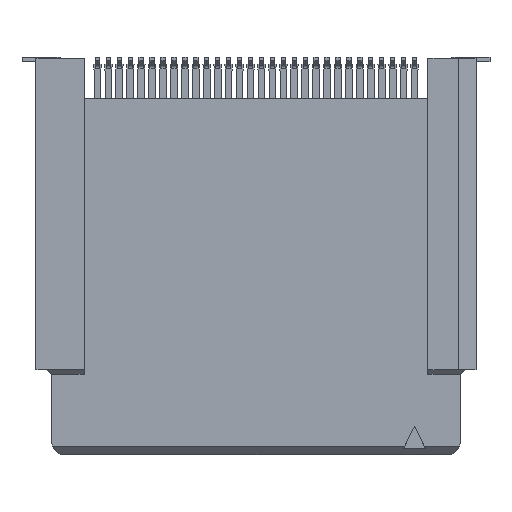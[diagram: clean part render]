
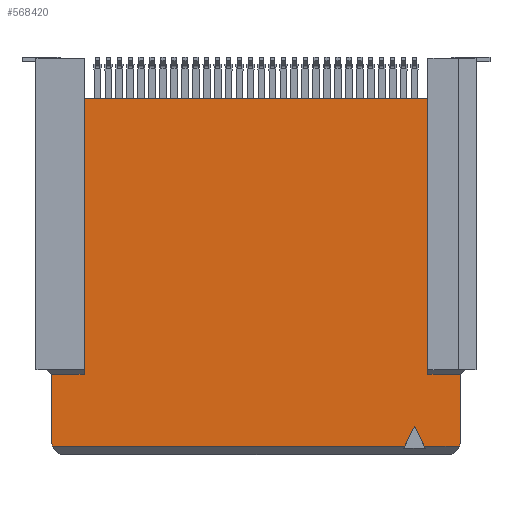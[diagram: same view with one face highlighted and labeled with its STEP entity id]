
A CAD part, front view. The second image highlights one B-rep face of the part: STEP entity #568420.
In plain terms, the highlighted planar face has unit normal (0, -1, 0).
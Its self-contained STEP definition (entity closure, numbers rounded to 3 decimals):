
#120=CARTESIAN_POINT('',(-7.43,-1.54,
-7.162));
#130=VERTEX_POINT('',#120);
#160=CARTESIAN_POINT('',(-7.43,-1.54,
-7.5));
#170=DIRECTION('',(0.,0.,-1.));
#180=VECTOR('',#170,1.);
#190=LINE('',#160,#180);
#200=CARTESIAN_POINT('',(-7.43,-1.54,
-22.882));
#210=VERTEX_POINT('',#200);
#220=EDGE_CURVE('',#130,#210,#190,.T.);
#2340=CARTESIAN_POINT('',(8.88,-1.54,
-5.662));
#2350=DIRECTION('',(-1.,0.,0.));
#2360=VECTOR('',#2350,1.);
#2370=LINE('',#2340,#2360);
#2380=CARTESIAN_POINT('',(8.33,-1.54,
-5.662));
#2390=VERTEX_POINT('',#2380);
#2400=CARTESIAN_POINT('',(5.2,-1.54,
-5.662));
#2410=VERTEX_POINT('',#2400);
#2420=EDGE_CURVE('',#2390,#2410,#2370,.T.);
#93850=CARTESIAN_POINT('',(7.58,-1.54,
-7.772));
#93860=VERTEX_POINT('',#93850);
#94030=CARTESIAN_POINT('',(8.48,-1.54,
-8.222));
#94040=VERTEX_POINT('',#94030);
#94070=CARTESIAN_POINT('',(0.,-1.54,
-3.982));
#94080=DIRECTION('',(0.894,0.,
-0.447));
#94090=VECTOR('',#94080,1.);
#94100=LINE('',#94070,#94090);
#94110=EDGE_CURVE('',#93860,#94040,#94100,.T.);
#183520=CARTESIAN_POINT('',(5.2,-1.54,
-6.412));
#183530=DIRECTION('',(0.,0.,1.));
#183540=VECTOR('',#183530,1.);
#183550=LINE('',#183520,#183540);
#183560=CARTESIAN_POINT('',(5.2,-1.54,
-7.162));
#183570=VERTEX_POINT('',#183560);
#183580=EDGE_CURVE('',#183570,#2410,#183550,.T.);
#221560=CARTESIAN_POINT('',(0.,-1.54,
-7.162));
#221570=DIRECTION('',(-1.,0.,0.));
#221580=VECTOR('',#221570,1.);
#221590=LINE('',#221560,#221580);
#221600=EDGE_CURVE('',#183570,#130,#221590,.T.);
#262290=CARTESIAN_POINT('',(8.48,-1.54,
-5.722));
#262300=VERTEX_POINT('',#262290);
#262330=CARTESIAN_POINT('',(1.,-1.54,
-2.73));
#262340=DIRECTION('',(0.928,0.,
-0.371));
#262350=VECTOR('',#262340,1.);
#262360=LINE('',#262330,#262350);
#262370=EDGE_CURVE('',#2390,#262300,#262360,.T.);
#274890=CARTESIAN_POINT('',(0.,-1.54,
-11.562));
#274900=DIRECTION('',(-0.894,0.,
-0.447));
#274910=VECTOR('',#274900,1.);
#274920=LINE('',#274890,#274910);
#274930=CARTESIAN_POINT('',(8.48,-1.54,
-7.322));
#274940=VERTEX_POINT('',#274930);
#274950=EDGE_CURVE('',#274940,#93860,#274920,.T.);
#489940=CARTESIAN_POINT('',(5.2,-1.54,
-24.382));
#489950=VERTEX_POINT('',#489940);
#567510=CARTESIAN_POINT('',(0.,-1.54,
-22.882));
#567520=DIRECTION('',(1.,0.,0.));
#567530=VECTOR('',#567520,1.);
#567540=LINE('',#567510,#567530);
#567550=CARTESIAN_POINT('',(5.2,-1.54,
-22.882));
#567560=VERTEX_POINT('',#567550);
#567570=EDGE_CURVE('',#210,#567560,#567540,.T.);
#567930=CARTESIAN_POINT('',(-2.93,-1.54,
-5.022));
#567940=DIRECTION('',(0.,-1.,0.));
#567950=DIRECTION('',(1.,0.,0.));
#567960=AXIS2_PLACEMENT_3D('',#567930,#567940,#567950);
#567970=PLANE('',#567960);
#567980=CARTESIAN_POINT('',(1.,-1.54,
-27.314));
#567990=DIRECTION('',(0.928,0.,
0.371));
#568000=VECTOR('',#567990,1.);
#568010=LINE('',#567980,#568000);
#568020=CARTESIAN_POINT('',(8.33,-1.54,
-24.382));
#568030=VERTEX_POINT('',#568020);
#568040=CARTESIAN_POINT('',(8.48,-1.54,
-24.322));
#568050=VERTEX_POINT('',#568040);
#568060=EDGE_CURVE('',#568030,#568050,#568010,.T.);
#568070=ORIENTED_EDGE('',*,*,#568060,.T.);
#568080=CARTESIAN_POINT('',(8.88,-1.54,
-24.382));
#568090=DIRECTION('',(-1.,0.,0.));
#568100=VECTOR('',#568090,1.);
#568110=LINE('',#568080,#568100);
#568120=EDGE_CURVE('',#568030,#489950,#568110,.T.);
#568130=ORIENTED_EDGE('',*,*,#568120,.F.);
#568140=CARTESIAN_POINT('',(5.2,-1.54,
-23.632));
#568150=DIRECTION('',(0.,0.,-1.));
#568160=VECTOR('',#568150,1.);
#568170=LINE('',#568140,#568160);
#568180=EDGE_CURVE('',#567560,#489950,#568170,.T.);
#568190=ORIENTED_EDGE('',*,*,#568180,.T.);
#568200=ORIENTED_EDGE('',*,*,#567570,.T.);
#568210=ORIENTED_EDGE('',*,*,#220,.T.);
#568220=ORIENTED_EDGE('',*,*,#221600,.T.);
#568230=ORIENTED_EDGE('',*,*,#183580,.F.);
#568240=ORIENTED_EDGE('',*,*,#2420,.T.);
#568250=ORIENTED_EDGE('',*,*,#262370,.F.);
#568260=CARTESIAN_POINT('',(8.48,-1.54,
-29.452));
#568270=DIRECTION('',(0.,0.,-1.));
#568280=VECTOR('',#568270,1.);
#568290=LINE('',#568260,#568280);
#568300=EDGE_CURVE('',#262300,#274940,#568290,.T.);
#568310=ORIENTED_EDGE('',*,*,#568300,.F.);
#568320=ORIENTED_EDGE('',*,*,#274950,.F.);
#568330=ORIENTED_EDGE('',*,*,#94110,.F.);
#568340=CARTESIAN_POINT('',(8.48,-1.54,
-9.452));
#568350=DIRECTION('',(0.,0.,-1.));
#568360=VECTOR('',#568350,1.);
#568370=LINE('',#568340,#568360);
#568380=EDGE_CURVE('',#94040,#568050,#568370,.T.);
#568390=ORIENTED_EDGE('',*,*,#568380,.F.);
#568400=EDGE_LOOP('',(#568390,#568330,#568320,#568310,#568250,#568240,
#568230,#568220,#568210,#568200,#568190,#568130,#568070));
#568410=FACE_OUTER_BOUND('',#568400,.T.);
#568420=ADVANCED_FACE('',(#568410),#567970,.T.);
